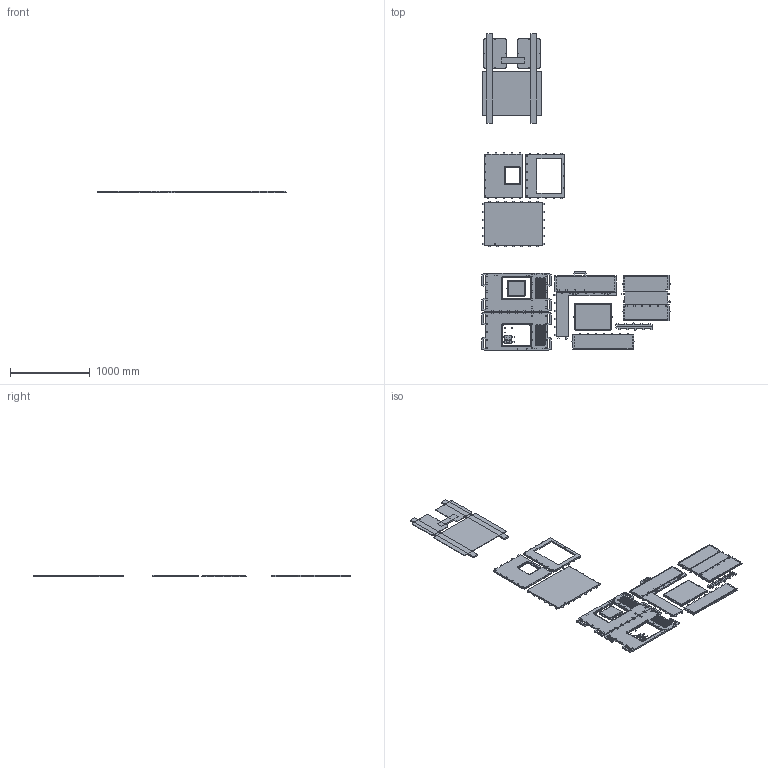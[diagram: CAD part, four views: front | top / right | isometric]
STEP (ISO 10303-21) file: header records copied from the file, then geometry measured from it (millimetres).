
FILE_DESCRIPTION(/* description */ (''),/* implementation_level */ '2;1');
FILE_NAME(/* name */ 'HA5E1E~1',/* time_stamp */ '2017-11-06T12:20:03+01:00',/* author */ (''),/* organization */ (''),/* preprocessor_version */ 'ST-DEVELOPER v15',/* originating_system */ '',/* authorisation */ '');
FILE_SCHEMA (('AUTOMOTIVE_DESIGN'));
Products named in the file (1): Document
Bounding box: 2368.91 x 3970.48 x 20 mm (x, y, z)
Volume: 49558904.6 mm3; surface area: 7401177.3 mm2
Topology: 56 solids, 56 shells, 3049 faces, 9122 edges, 6263 vertices
Faces by surface type: bspline 1838, plane 1211
Entity records: 105623 total; most frequent: CARTESIAN_POINT 53202, ORIENTED_EDGE 17158, EDGE_CURVE 8579, VERTEX_POINT 5720, EDGE_LOOP 3759, B_SPLINE_CURVE_WITH_KNOTS 3563, ADVANCED_FACE 3049, FACE_OUTER_BOUND 3049
